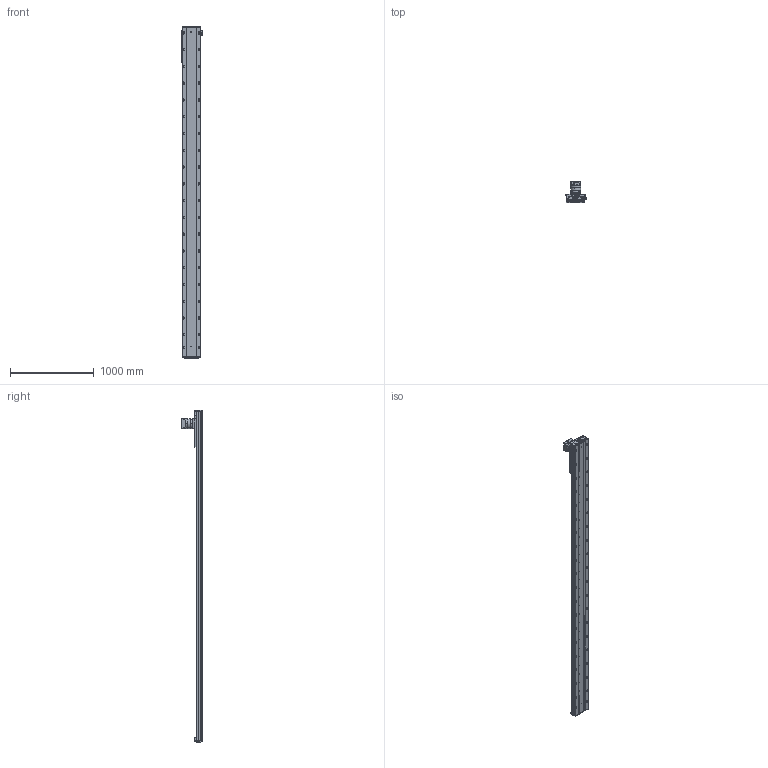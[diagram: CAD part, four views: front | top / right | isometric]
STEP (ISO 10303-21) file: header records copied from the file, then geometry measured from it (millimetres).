
FILE_DESCRIPTION (( 'STEP AP203' ), '1' );
FILE_NAME ('RY220-C-300-UK.SLDASM_3450.step', '2022-08-01T06:01:05', ( '' ), ( '' ), 'SwSTEP 2.0', 'SolidWorks 2016', '' );
FILE_SCHEMA (( 'CONFIG_CONTROL_DESIGN' ));
Length unit declared in the file: millimetre
Products named in the file (10): PF115L1-S2-22-58-110-145-M8; RY220-齿条模组电机安装板; RY220喘沭綴裔啣; RY140直线电机感应器674光电安装座; RY220菁釱MK-300_3450; RY220喘沭賑輸; 覜茼ん674; RY220喘沭俋离覜茼え; RY220-C-300-UK.SLDASM_3450; 滅袉蝶輸ㄗG412隅秶ㄘ
Assembly tree (12 placements, depth 2):
  RY220-C-300-UK.SLDASM_3450
    RY220菁釱MK-300_3450
    RY220喘沭賑輸
    RY220-齿条模组电机安装板
    PF115L1-S2-22-58-110-145-M8
    RY220喘沭綴裔啣  x2
    滅袉蝶輸ㄗG412隅秶ㄘ  x2
    RY140直线电机感应器674光电安装座
    覜茼ん674  x2
    RY220喘沭俋离覜茼え
Bounding box: 247 x 244.5 x 3959 mm (x, y, z)
Volume: 25579566.5 mm3; surface area: 5314644.2 mm2
Topology: 18 solids, 26 shells, 2546 faces, 6875 edges, 4258 vertices
Faces by surface type: cylinder 1269, plane 751, cone 364, bspline 162
Entity records: 81149 total; most frequent: CARTESIAN_POINT 21868, DIRECTION 12335, ORIENTED_EDGE 11922, EDGE_CURVE 5961, AXIS2_PLACEMENT_3D 4753, VERTEX_POINT 3884, EDGE_LOOP 3025, LINE 2829
